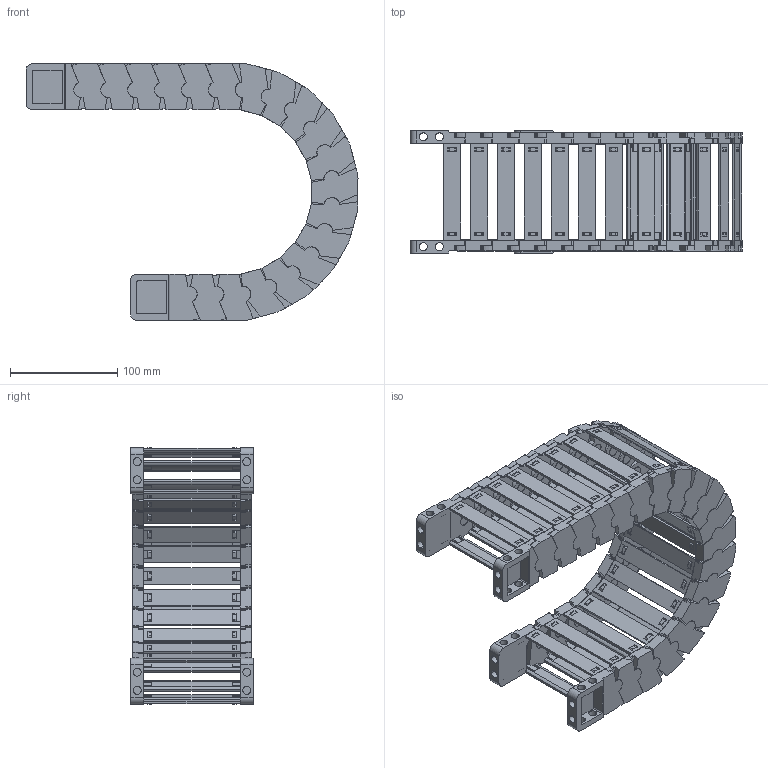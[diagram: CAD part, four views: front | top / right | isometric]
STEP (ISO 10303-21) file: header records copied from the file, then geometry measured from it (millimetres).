
FILE_DESCRIPTION((''),'2;1');
FILE_NAME('JY-35X90-R100_ASM','2022-05-06T17:05:38',('admin'),(''),'CREO PARAMETRIC BY PTC INC, 2021164','CREO PARAMETRIC BY PTC INC, 2021164','');
FILE_SCHEMA(('CONFIG_CONTROL_DESIGN','GEOMETRIC_VALIDATION_PROPERTIES_MIM'));
Length unit declared in the file: millimetre
Products named in the file (11): 35XL-L; 25-35XL-YP; 35XL-R; ASM0001_ASM; 35-LTT-A-L; 35-LTT-A-R; 35XL-LTT-A_ASM; 35-LTT-B-L; 35-LTT-B-R; 35XL-LTT-B_ASM; JY-35X90-R100_ASM
Assembly tree (33 placements, depth 3):
  JY-35X90-R100_ASM
    ASM0001_ASM  x19
      35XL-L
      25-35XL-YP
      35XL-R
    35XL-LTT-A_ASM
      35-LTT-A-L
      25-35XL-YP  x2
      35-LTT-A-R
    35XL-LTT-B_ASM
      35-LTT-B-L
      25-35XL-YP  x2
      35-LTT-B-R
Bounding box: 310.13 x 114.6 x 239.89 mm (x, y, z)
Volume: 629762.2 mm3; surface area: 392405.1 mm2
Topology: 84 solids, 84 shells, 4366 faces, 12770 edges, 8536 vertices
Faces by surface type: plane 3318, cylinder 1044, bspline 4
Entity records: 20862 total; most frequent: CARTESIAN_POINT 3243, ORIENTED_EDGE 2876, DIRECTION 2864, EDGE_CURVE 1438, VECTOR 1056, LINE 1056, VERTEX_POINT 964, AXIS2_PLACEMENT_3D 904
